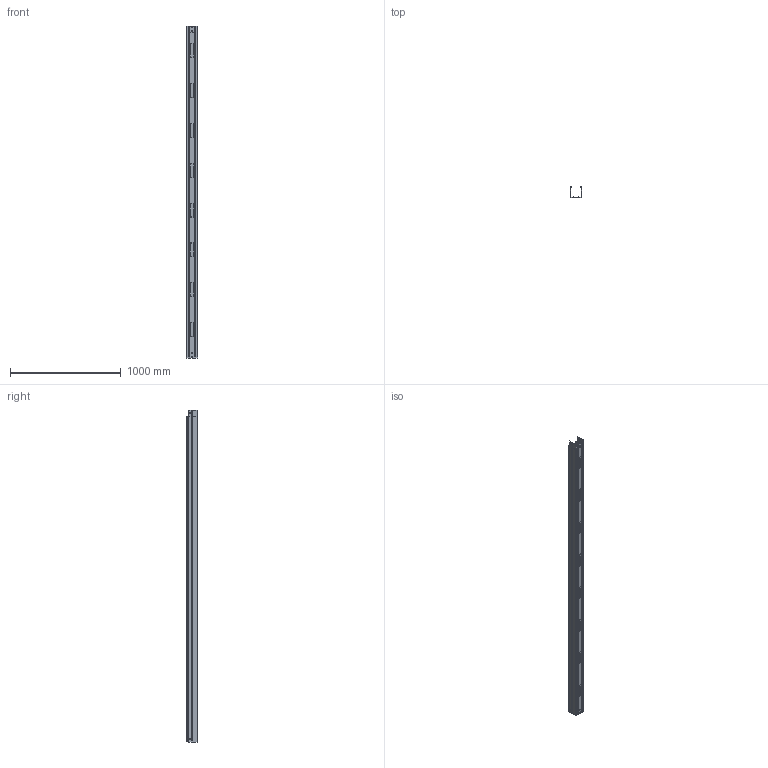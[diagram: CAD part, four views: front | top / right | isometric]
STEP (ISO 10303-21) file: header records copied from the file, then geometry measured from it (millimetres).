
FILE_DESCRIPTION (( 'STEP AP203' ), '1' );
FILE_NAME ('ERE-C 100x100 100x100.step', '2023-07-27T16:32:35', ( '' ), ( '' ), 'SwSTEP 2.0', 'SolidWorks 2022', '' );
FILE_SCHEMA (( 'CONFIG_CONTROL_DESIGN' ));
Products named in the file (1): ERE-C 100x100 100x100
Bounding box: 100 x 100.8 x 3000 mm (x, y, z)
Volume: 519020.2 mm3; surface area: 1881235.1 mm2
Topology: 1 solids, 1 shells, 10022 faces, 29532 edges, 19592 vertices
Faces by surface type: plane 9728, cylinder 190, torus 64, cone 36, bspline 4
Entity records: 326959 total; most frequent: CARTESIAN_POINT 59457, ORIENTED_EDGE 59064, DIRECTION 49956, EDGE_CURVE 29532, VECTOR 28974, LINE 28974, VERTEX_POINT 19592, AXIS2_PLACEMENT_3D 10491
